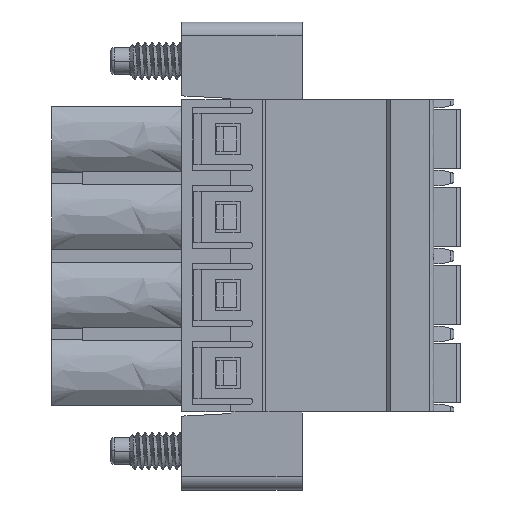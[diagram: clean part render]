
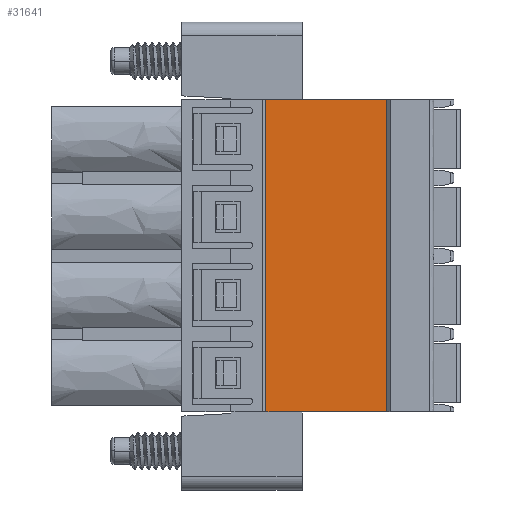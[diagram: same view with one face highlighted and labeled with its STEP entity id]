
A CAD part, front view. The second image highlights one B-rep face of the part: STEP entity #31641.
In plain terms, the highlighted free-form (B-spline) face has degree [1, 1] with [2, 2] control points.
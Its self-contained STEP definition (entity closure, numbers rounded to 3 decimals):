
#31641 = ADVANCED_FACE('',(#31642),#31655,.T.);
#31642 = FACE_BOUND('',#31643,.T.);
#31643 = EDGE_LOOP('',(#31644,#31665,#31702,#31716));
#31644 = ORIENTED_EDGE('',*,*,#31645,.F.);
#31645 = EDGE_CURVE('',#31646,#31648,#31650,.T.);
#31646 = VERTEX_POINT('',#31647);
#31647 = CARTESIAN_POINT('',(5.44,0.23,
    0.));
#31648 = VERTEX_POINT('',#31649);
#31649 = CARTESIAN_POINT('',(13.19,0.23,0.));
#31650 = SURFACE_CURVE('',#31651,(#31654),.PCURVE_S1.);
#31651 = B_SPLINE_CURVE_WITH_KNOTS('',1,(#31652,#31653),.UNSPECIFIED.,
  .F.,.F.,(2,2),(0.,1.),.PIECEWISE_BEZIER_KNOTS.);
#31652 = CARTESIAN_POINT('',(5.44,0.23,
    0.));
#31653 = CARTESIAN_POINT('',(13.19,0.23,0.));
#31654 = PCURVE('',#31655,#31660);
#31655 = B_SPLINE_SURFACE_WITH_KNOTS('',1,1,(
    (#31656,#31657)
    ,(#31658,#31659
  )),.UNSPECIFIED.,.F.,.F.,.F.,(2,2),(2,2),(0.,1.),(0.,1.),
  .PIECEWISE_BEZIER_KNOTS.);
#31656 = CARTESIAN_POINT('',(20.039,0.23,
    -20.725));
#31657 = CARTESIAN_POINT('',(-1.41,0.23,-20.725
    ));
#31658 = CARTESIAN_POINT('',(20.039,0.23,
    0.725));
#31659 = CARTESIAN_POINT('',(-1.41,0.23,0.725
    ));
#31660 = DEFINITIONAL_REPRESENTATION('',(#31661),#31664);
#31661 = B_SPLINE_CURVE_WITH_KNOTS('',1,(#31662,#31663),.UNSPECIFIED.,
  .F.,.F.,(2,2),(0.,1.),.PIECEWISE_BEZIER_KNOTS.);
#31662 = CARTESIAN_POINT('',(0.966,0.681));
#31663 = CARTESIAN_POINT('',(0.966,0.319));
#31664 = ( GEOMETRIC_REPRESENTATION_CONTEXT(2) 
PARAMETRIC_REPRESENTATION_CONTEXT() REPRESENTATION_CONTEXT('2D SPACE',''
  ) );
#31665 = ORIENTED_EDGE('',*,*,#31666,.F.);
#31666 = EDGE_CURVE('',#31667,#31646,#31669,.T.);
#31667 = VERTEX_POINT('',#31668);
#31668 = CARTESIAN_POINT('',(5.44,0.23,-20.));
#31669 = SURFACE_CURVE('',#31670,(#31673),.PCURVE_S1.);
#31670 = B_SPLINE_CURVE_WITH_KNOTS('',1,(#31671,#31672),.UNSPECIFIED.,
  .F.,.F.,(2,2),(0.,1.),.PIECEWISE_BEZIER_KNOTS.);
#31671 = CARTESIAN_POINT('',(5.44,0.23,-20.));
#31672 = CARTESIAN_POINT('',(5.44,0.23,
    0.));
#31673 = PCURVE('',#31655,#31674);
#31674 = DEFINITIONAL_REPRESENTATION('',(#31675),#31701);
#31675 = B_SPLINE_CURVE_WITH_KNOTS('',3,(#31676,#31677,#31678,#31679,
    #31680,#31681,#31682,#31683,#31684,#31685,#31686,#31687,#31688,
    #31689,#31690,#31691,#31692,#31693,#31694,#31695,#31696,#31697,
    #31698,#31699,#31700),.UNSPECIFIED.,.F.,.F.,(4,1,1,1,1,1,1,1,1,1,1,1
    ,1,1,1,1,1,1,1,1,1,1,4),(0.,0.045,
    0.091,0.136,0.182,0.227,
    0.273,0.318,0.364,0.409,
    0.455,0.5,0.545,0.591,0.636,
    0.682,0.727,0.773,0.818,
    0.864,0.909,0.955,1.),
  .QUASI_UNIFORM_KNOTS.);
#31676 = CARTESIAN_POINT('',(0.034,0.681));
#31677 = CARTESIAN_POINT('',(0.048,0.681));
#31678 = CARTESIAN_POINT('',(0.076,0.681));
#31679 = CARTESIAN_POINT('',(0.119,0.681));
#31680 = CARTESIAN_POINT('',(0.161,0.681));
#31681 = CARTESIAN_POINT('',(0.203,0.681));
#31682 = CARTESIAN_POINT('',(0.246,0.681));
#31683 = CARTESIAN_POINT('',(0.288,0.681));
#31684 = CARTESIAN_POINT('',(0.33,0.681));
#31685 = CARTESIAN_POINT('',(0.373,0.681));
#31686 = CARTESIAN_POINT('',(0.415,0.681));
#31687 = CARTESIAN_POINT('',(0.458,0.681));
#31688 = CARTESIAN_POINT('',(0.5,0.681));
#31689 = CARTESIAN_POINT('',(0.542,0.681));
#31690 = CARTESIAN_POINT('',(0.585,0.681));
#31691 = CARTESIAN_POINT('',(0.627,0.681));
#31692 = CARTESIAN_POINT('',(0.67,0.681));
#31693 = CARTESIAN_POINT('',(0.712,0.681));
#31694 = CARTESIAN_POINT('',(0.754,0.681));
#31695 = CARTESIAN_POINT('',(0.797,0.681));
#31696 = CARTESIAN_POINT('',(0.839,0.681));
#31697 = CARTESIAN_POINT('',(0.881,0.681));
#31698 = CARTESIAN_POINT('',(0.924,0.681));
#31699 = CARTESIAN_POINT('',(0.952,0.681));
#31700 = CARTESIAN_POINT('',(0.966,0.681));
#31701 = ( GEOMETRIC_REPRESENTATION_CONTEXT(2) 
PARAMETRIC_REPRESENTATION_CONTEXT() REPRESENTATION_CONTEXT('2D SPACE',''
  ) );
#31702 = ORIENTED_EDGE('',*,*,#31703,.F.);
#31703 = EDGE_CURVE('',#31704,#31667,#31706,.T.);
#31704 = VERTEX_POINT('',#31705);
#31705 = CARTESIAN_POINT('',(13.19,0.23,-20.));
#31706 = SURFACE_CURVE('',#31707,(#31710),.PCURVE_S1.);
#31707 = B_SPLINE_CURVE_WITH_KNOTS('',1,(#31708,#31709),.UNSPECIFIED.,
  .F.,.F.,(2,2),(0.,1.),.PIECEWISE_BEZIER_KNOTS.);
#31708 = CARTESIAN_POINT('',(13.19,0.23,-20.));
#31709 = CARTESIAN_POINT('',(5.44,0.23,-20.));
#31710 = PCURVE('',#31655,#31711);
#31711 = DEFINITIONAL_REPRESENTATION('',(#31712),#31715);
#31712 = B_SPLINE_CURVE_WITH_KNOTS('',1,(#31713,#31714),.UNSPECIFIED.,
  .F.,.F.,(2,2),(0.,1.),.PIECEWISE_BEZIER_KNOTS.);
#31713 = CARTESIAN_POINT('',(0.034,0.319));
#31714 = CARTESIAN_POINT('',(0.034,0.681));
#31715 = ( GEOMETRIC_REPRESENTATION_CONTEXT(2) 
PARAMETRIC_REPRESENTATION_CONTEXT() REPRESENTATION_CONTEXT('2D SPACE',''
  ) );
#31716 = ORIENTED_EDGE('',*,*,#31717,.T.);
#31717 = EDGE_CURVE('',#31704,#31648,#31718,.T.);
#31718 = SURFACE_CURVE('',#31719,(#31722),.PCURVE_S1.);
#31719 = B_SPLINE_CURVE_WITH_KNOTS('',1,(#31720,#31721),.UNSPECIFIED.,
  .F.,.F.,(2,2),(0.,1.),.PIECEWISE_BEZIER_KNOTS.);
#31720 = CARTESIAN_POINT('',(13.19,0.23,-20.));
#31721 = CARTESIAN_POINT('',(13.19,0.23,0.));
#31722 = PCURVE('',#31655,#31723);
#31723 = DEFINITIONAL_REPRESENTATION('',(#31724),#31750);
#31724 = B_SPLINE_CURVE_WITH_KNOTS('',3,(#31725,#31726,#31727,#31728,
    #31729,#31730,#31731,#31732,#31733,#31734,#31735,#31736,#31737,
    #31738,#31739,#31740,#31741,#31742,#31743,#31744,#31745,#31746,
    #31747,#31748,#31749),.UNSPECIFIED.,.F.,.F.,(4,1,1,1,1,1,1,1,1,1,1,1
    ,1,1,1,1,1,1,1,1,1,1,4),(0.,0.045,
    0.091,0.136,0.182,0.227,
    0.273,0.318,0.364,0.409,
    0.455,0.5,0.545,0.591,0.636,
    0.682,0.727,0.773,0.818,
    0.864,0.909,0.955,1.),
  .QUASI_UNIFORM_KNOTS.);
#31725 = CARTESIAN_POINT('',(0.034,0.319));
#31726 = CARTESIAN_POINT('',(0.048,0.319));
#31727 = CARTESIAN_POINT('',(0.076,0.319));
#31728 = CARTESIAN_POINT('',(0.119,0.319));
#31729 = CARTESIAN_POINT('',(0.161,0.319));
#31730 = CARTESIAN_POINT('',(0.203,0.319));
#31731 = CARTESIAN_POINT('',(0.246,0.319));
#31732 = CARTESIAN_POINT('',(0.288,0.319));
#31733 = CARTESIAN_POINT('',(0.33,0.319));
#31734 = CARTESIAN_POINT('',(0.373,0.319));
#31735 = CARTESIAN_POINT('',(0.415,0.319));
#31736 = CARTESIAN_POINT('',(0.458,0.319));
#31737 = CARTESIAN_POINT('',(0.5,0.319));
#31738 = CARTESIAN_POINT('',(0.542,0.319));
#31739 = CARTESIAN_POINT('',(0.585,0.319));
#31740 = CARTESIAN_POINT('',(0.627,0.319));
#31741 = CARTESIAN_POINT('',(0.67,0.319));
#31742 = CARTESIAN_POINT('',(0.712,0.319));
#31743 = CARTESIAN_POINT('',(0.754,0.319));
#31744 = CARTESIAN_POINT('',(0.797,0.319));
#31745 = CARTESIAN_POINT('',(0.839,0.319));
#31746 = CARTESIAN_POINT('',(0.881,0.319));
#31747 = CARTESIAN_POINT('',(0.924,0.319));
#31748 = CARTESIAN_POINT('',(0.952,0.319));
#31749 = CARTESIAN_POINT('',(0.966,0.319));
#31750 = ( GEOMETRIC_REPRESENTATION_CONTEXT(2) 
PARAMETRIC_REPRESENTATION_CONTEXT() REPRESENTATION_CONTEXT('2D SPACE',''
  ) );
